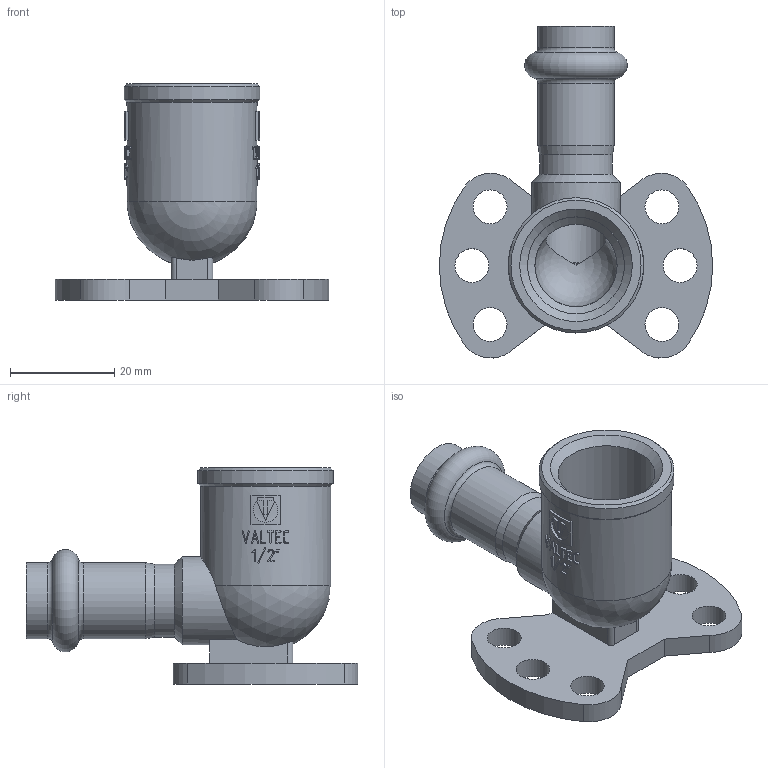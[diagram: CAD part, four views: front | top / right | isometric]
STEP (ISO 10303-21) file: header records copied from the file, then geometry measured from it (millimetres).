
FILE_DESCRIPTION(('STEP AP203'), '1');
FILE_NAME('VTi.954.I.001204', '', ('UNSPECIFIED'), ('UNSPECIFIED'), 'C3D Converter', 'C3D Toolkit', '');
FILE_SCHEMA(('CONFIG_CONTROL_DESIGN'));
Length unit declared in the file: millimetre
Bounding box: 52.5 x 63.73 x 41.5 mm (x, y, z)
Volume: 15810.1 mm3; surface area: 12038.1 mm2
Topology: 2 solids, 2 shells, 499 faces, 1387 edges, 918 vertices
Faces by surface type: extrusion 258, plane 167, cylinder 57, cone 7, torus 7, sphere 3
Full cylindrical faces by diameter (mm): 6.5 x6, 11.6 x1, 12.2 x2, 14 x1, 14.6 x2, 15.8 x1, 17 x1, 18.632 x1, 25 x1, 26 x1
Entity records: 20735 total; most frequent: CARTESIAN_POINT 9333, ORIENTED_EDGE 2704, DIRECTION 1584, EDGE_CURVE 1352, VERTEX_POINT 916, B_SPLINE_CURVE_WITH_KNOTS 790, VECTOR 776, EDGE_LOOP 572
